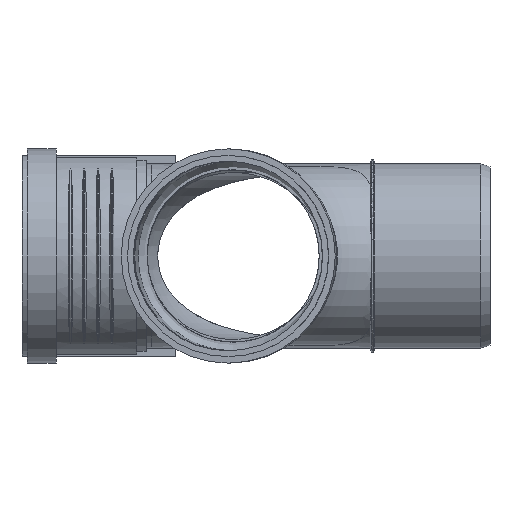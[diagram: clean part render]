
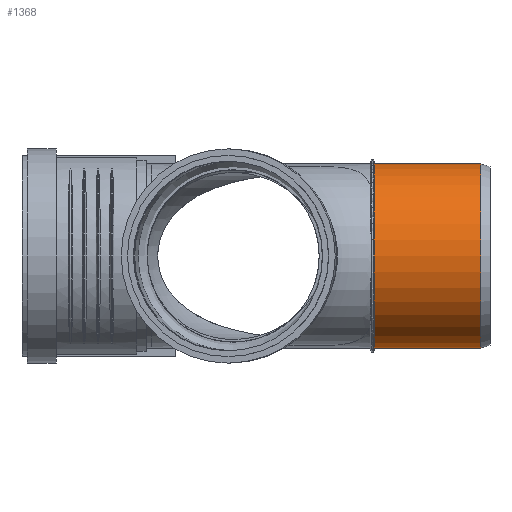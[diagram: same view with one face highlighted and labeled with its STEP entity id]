
A CAD part, left-side view. The second image highlights one B-rep face of the part: STEP entity #1368.
In plain terms, the highlighted cylindrical face has radius 55.1 mm (diameter 110.2 mm), a full revolution.
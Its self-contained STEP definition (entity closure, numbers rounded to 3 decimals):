
#151=FACE_BOUND($,#325,.T.);
#197=CYLINDRICAL_SURFACE($,#1482,55.1);
#234=FACE_OUTER_BOUND($,#324,.T.);
#324=EDGE_LOOP($,(#934));
#325=EDGE_LOOP($,(#935));
#442=CIRCLE($,#1481,55.1);
#443=CIRCLE($,#1483,55.1);
#588=VERTEX_POINT($,#2504);
#589=VERTEX_POINT($,#2507);
#730=EDGE_CURVE($,#588,#588,#442,.T.);
#731=EDGE_CURVE($,#589,#589,#443,.T.);
#934=ORIENTED_EDGE($,*,*,#730,.T.);
#935=ORIENTED_EDGE($,*,*,#731,.F.);
#1368=ADVANCED_FACE($,(#234,#151),#197,.T.);
#1481=AXIS2_PLACEMENT_3D($,#2505,#1692,#1693);
#1482=AXIS2_PLACEMENT_3D($,#2506,#1694,#1695);
#1483=AXIS2_PLACEMENT_3D($,#2508,#1696,#1697);
#1692=DIRECTION('center_axis',(0.,1.,0.));
#1693=DIRECTION('ref_axis',(-1.,0.,0.));
#1694=DIRECTION('center_axis',(0.,1.,0.));
#1695=DIRECTION('ref_axis',(-1.,0.,0.));
#1696=DIRECTION('center_axis',(0.,1.,0.));
#1697=DIRECTION('ref_axis',(-1.,0.,0.));
#2504=CARTESIAN_POINT('',(-55.1,5.5,0.));
#2505=CARTESIAN_POINT('Origin',(0.,5.5,0.));
#2506=CARTESIAN_POINT('Origin',(0.,37.3,0.));
#2507=CARTESIAN_POINT('',(-55.1,69.1,0.));
#2508=CARTESIAN_POINT('Origin',(0.,69.1,0.));
